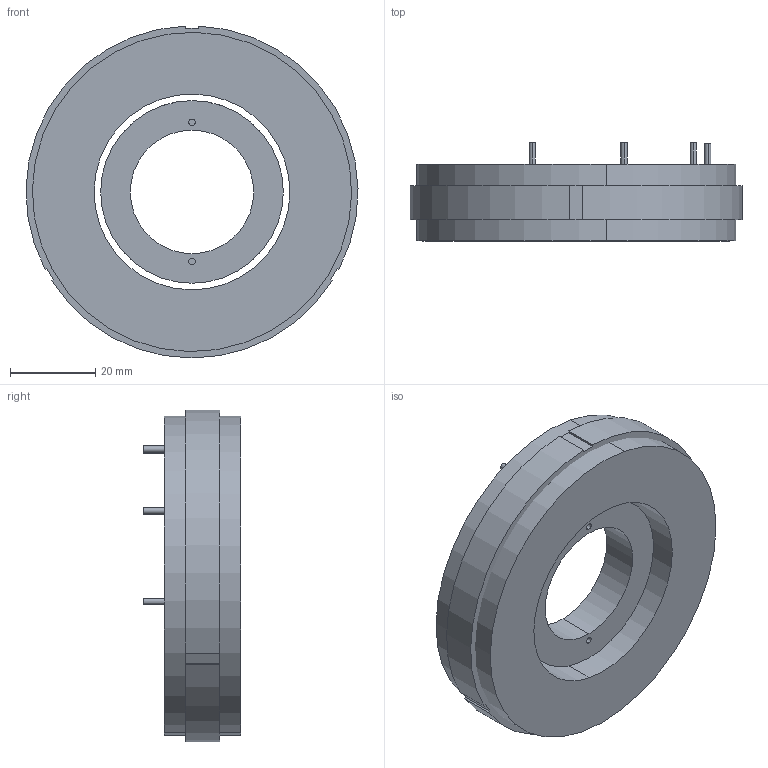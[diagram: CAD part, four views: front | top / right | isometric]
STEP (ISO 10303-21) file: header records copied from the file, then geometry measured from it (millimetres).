
FILE_DESCRIPTION (( 'STEP AP203' ), '1' );
FILE_NAME ('TM78-17 KIT 3D.STEP', '2021-06-08T00:11:55', ( '' ), ( '' ), 'SwSTEP 2.0', 'SolidWorks 2021', '' );
FILE_SCHEMA (( 'CONFIG_CONTROL_DESIGN' ));
Length unit declared in the file: millimetre
Products named in the file (1): TM78-17 KIT 3D
Bounding box: 77.99 x 23 x 77.97 mm (x, y, z)
Volume: 65219.1 mm3; surface area: 24429.8 mm2
Topology: 15 solids, 15 shells, 183 faces, 435 edges, 290 vertices
Faces by surface type: plane 101, cylinder 82
Entity records: 5394 total; most frequent: DIRECTION 967, CARTESIAN_POINT 909, ORIENTED_EDGE 870, EDGE_CURVE 435, AXIS2_PLACEMENT_3D 348, VERTEX_POINT 290, VECTOR 271, LINE 271
